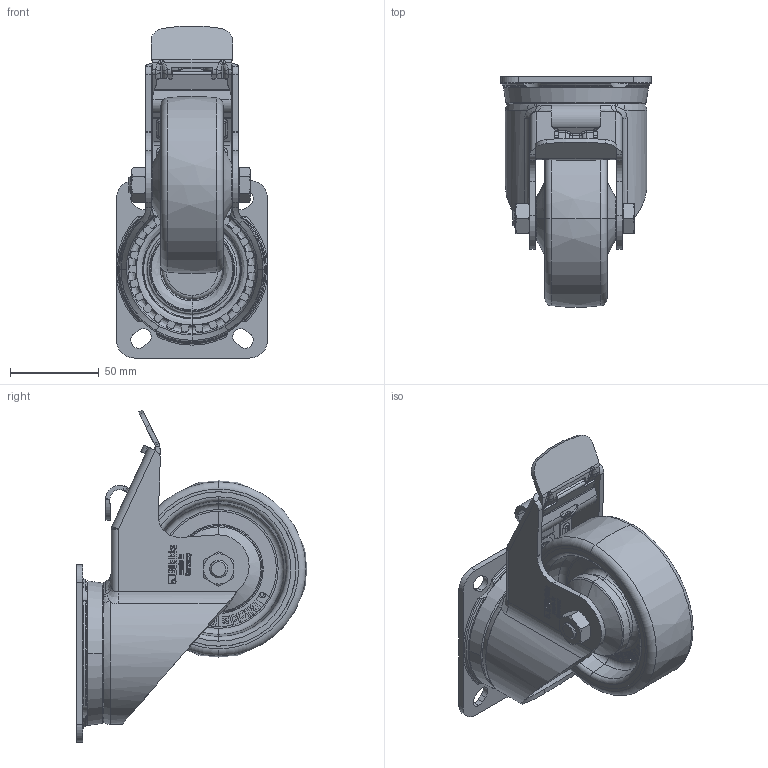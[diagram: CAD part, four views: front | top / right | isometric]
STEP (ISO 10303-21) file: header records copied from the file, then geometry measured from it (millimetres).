
FILE_DESCRIPTION (( 'STEP AP214' ), '1' );
FILE_NAME ('LK-POTH_100K-1-FI_616136-214.step', '2022-01-11T13:34:14', ( '' ), ( '' ), 'SwSTEP 2.0', 'SolidWorks 2018', '' );
FILE_SCHEMA (( 'AUTOMOTIVE_DESIGN' ));
Length unit declared in the file: millimetre
Products named in the file (5): POTH_3D_G16_POTH_100_10K_253609; POTH_100_10K_G16_3D; GH-LK_80-100_GH-LK-100x45-01-FIH_10x46; GH-LK-100x45-01-FIH_10x46_G16_3D; LK-POTH_100K-1-FI_616136-214
Assembly tree (4 placements, depth 3):
  LK-POTH_100K-1-FI_616136-214
    GH-LK_80-100_GH-LK-100x45-01-FIH_10x46
      GH-LK-100x45-01-FIH_10x46_G16_3D
    POTH_3D_G16_POTH_100_10K_253609
      POTH_100_10K_G16_3D
Bounding box: 85 x 129.89 x 187.06 mm (x, y, z)
Volume: 316794.3 mm3; surface area: 133301.4 mm2
Topology: 2 solids, 7 shells, 3052 faces, 8243 edges, 5349 vertices
Faces by surface type: plane 1234, bspline 1089, cylinder 472, cone 157, torus 100
Entity records: 123395 total; most frequent: CARTESIAN_POINT 50449, ORIENTED_EDGE 16446, DIRECTION 10766, EDGE_CURVE 8223, VERTEX_POINT 5349, VECTOR 3986, LINE 3986, AXIS2_PLACEMENT_3D 3390
